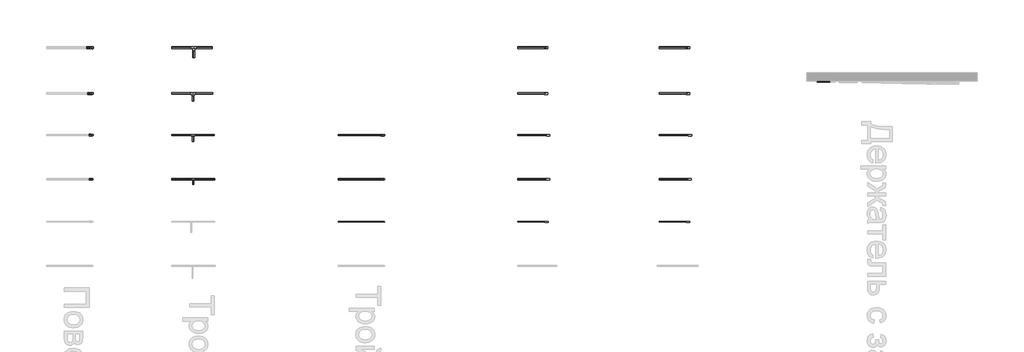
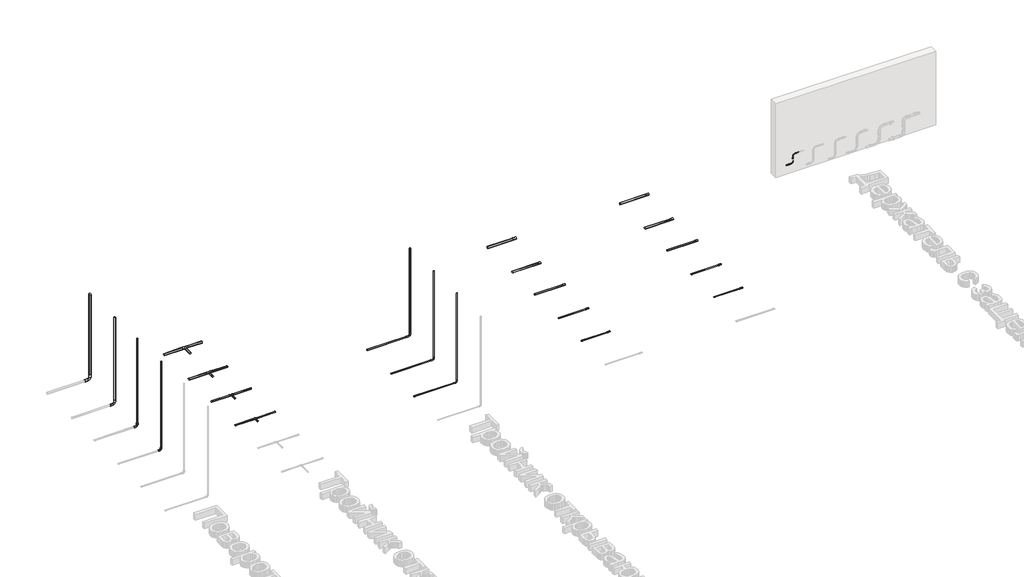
# One storey, part 5 of 33: 36 cable carrier segments, 25 cable carrier fittings.
"""IFC4 building model written with IfcOpenShell, lengths in millimetres."""

from ifc_helpers import new_model, si_unit, point, frame, frame_2d, origin, place, context, project, spatial, circle_curve, trimmed, segment, composite_curve, outline, extrude, transform, mapped, element, save
from components import cable_carrier_fitting_a50456ce, cable_carrier_fitting_bbf9297c, cable_carrier_fitting_fce20a62, cable_carrier_fitting_09f9ef3d, cable_carrier_fitting_f1df9ac4, cable_carrier_fitting_5acdfb20, cable_carrier_fitting_46aa9863, cable_carrier_fitting_b532b940, cable_carrier_fitting_59e1ce25, cable_carrier_fitting_cf1a74b0, cable_carrier_fitting_2f32caac, cable_carrier_fitting_6d3d2407, cable_carrier_fitting_cf892bee, cable_carrier_fitting_980a1c15, cable_carrier_fitting_9b2a14fc, cable_carrier_fitting_f114ceb8, cable_carrier_fitting_bc4a73b8, cable_carrier_fitting_2c533e93

model = new_model("IFC4")

# Units and contexts
model_context = context("Model", 3, world=origin())
ifc_project = project(units=[si_unit("LENGTHUNIT", "METRE", prefix="MILLI")], contexts=[model_context])

# Site, building, storey
site = spatial("IfcSite", under=ifc_project)
building = spatial("IfcBuilding", under=site)
storey = spatial("IfcBuildingStorey", under=building, Name="Уровень 1", Elevation=0.0)

# Cable carrier fittings
placement = place(None, origin())
cable_carrier_fitting_shape = cable_carrier_fitting_a50456ce(model_context)
element("IfcCableCarrierFitting", 1, ObjectType="Отвод Трубы гладкие жесткие ПВХ : Отвод Трубы гладкие жесткие ПВХ", at=placement, inside=storey, context=model_context, shape_type="MappedRepresentation", body=[
    mapped(cable_carrier_fitting_shape, transform((49857.669946, 4388.4818447, 256.0339275), x_axis=(1.0, 0.0, 0.0), y_axis=(0.0, 0.0, 1.0), z_axis=(0.0, -1.0, 0.0))),
])
element("IfcCableCarrierFitting", 2, ObjectType="Отвод Трубы гладкие жесткие ПВХ : Отвод Трубы гладкие жесткие ПВХ", at=placement, inside=storey, context=model_context, shape_type="MappedRepresentation", body=[
    mapped(cable_carrier_fitting_shape, transform((49857.669946, 4388.4818447, 500.0), x_axis=(0.0, 0.0, 1.0), y_axis=(1.0, 0.0, 0.0), z_axis=(0.0, 1.0, 0.0))),
])
cable_carrier_fitting_2_shape = cable_carrier_fitting_bbf9297c(model_context)
element("IfcCableCarrierFitting", 3, ObjectType="Поворот на 90 открывающийся CIG : Поворот на 90 открывающийся CIG", at=placement, inside=storey, context=model_context, shape_type="MappedRepresentation", body=[
    mapped(cable_carrier_fitting_2_shape, transform((39294.4472755, 3107.6255993, 45.929251), x_axis=(1.0, 0.0, 0.0), y_axis=(0.0, 0.0, 1.0), z_axis=(0.0, -1.0, 0.0))),
])
cable_carrier_fitting_3_shape = cable_carrier_fitting_fce20a62(model_context)
element("IfcCableCarrierFitting", 4, ObjectType="Поворот на 90 открывающийся CIG : Поворот на 90 открывающийся CIG", at=placement, inside=storey, context=model_context, shape_type="MappedRepresentation", body=[
    mapped(cable_carrier_fitting_3_shape, transform((39294.4472755, 1027.6255993, 45.929251), x_axis=(1.0, 0.0, 0.0), y_axis=(0.0, 0.0, 1.0), z_axis=(0.0, -1.0, 0.0))),
])
cable_carrier_fitting_4_shape = cable_carrier_fitting_09f9ef3d(model_context)
element("IfcCableCarrierFitting", 5, ObjectType="Поворот на 90 открывающийся CIG : Поворот на 90 открывающийся CIG", at=placement, inside=storey, context=model_context, shape_type="MappedRepresentation", body=[
    mapped(cable_carrier_fitting_4_shape, transform((39294.4472755, 2047.6255993, 45.929251), x_axis=(1.0, 0.0, 0.0), y_axis=(0.0, 0.0, 1.0), z_axis=(0.0, -1.0, 0.0))),
])
cable_carrier_fitting_5_shape = cable_carrier_fitting_f1df9ac4(model_context)
element("IfcCableCarrierFitting", 6, ObjectType="Поворот на 90 труба-труба IP65 CS : Поворот на 90 труба-труба IP65 CS", at=placement, inside=storey, context=model_context, shape_type="MappedRepresentation", body=[
    mapped(cable_carrier_fitting_5_shape, transform((32294.4472755, 5207.6255993, 45.929251), x_axis=(1.0, 0.0, 0.0), y_axis=(0.0, 0.0, 1.0), z_axis=(0.0, -1.0, 0.0))),
])
cable_carrier_fitting_6_shape = cable_carrier_fitting_5acdfb20(model_context)
element("IfcCableCarrierFitting", 7, ObjectType="Поворот на 90 труба-труба IP65 CS : Поворот на 90 труба-труба IP65 CS", at=placement, inside=storey, context=model_context, shape_type="MappedRepresentation", body=[
    mapped(cable_carrier_fitting_6_shape, transform((32294.4472755, 2047.6255993, 45.929251), x_axis=(1.0, 0.0, 0.0), y_axis=(0.0, 0.0, 1.0), z_axis=(0.0, -1.0, 0.0))),
])
cable_carrier_fitting_7_shape = cable_carrier_fitting_46aa9863(model_context)
element("IfcCableCarrierFitting", 8, ObjectType="Поворот на 90 труба-труба IP65 CS : Поворот на 90 труба-труба IP65 CS", at=placement, inside=storey, context=model_context, shape_type="MappedRepresentation", body=[
    mapped(cable_carrier_fitting_7_shape, transform((32294.4472755, 3107.6255993, 45.929251), x_axis=(1.0, 0.0, 0.0), y_axis=(0.0, 0.0, 1.0), z_axis=(0.0, -1.0, 0.0))),
])
cable_carrier_fitting_8_shape = cable_carrier_fitting_b532b940(model_context)
element("IfcCableCarrierFitting", 9, ObjectType="Поворот на 90 труба-труба IP65 CS : Поворот на 90 труба-труба IP65 CS", at=placement, inside=storey, context=model_context, shape_type="MappedRepresentation", body=[
    mapped(cable_carrier_fitting_8_shape, transform((32294.4472755, 4107.6255993, 45.929251), x_axis=(1.0, 0.0, 0.0), y_axis=(0.0, 0.0, 1.0), z_axis=(0.0, -1.0, 0.0))),
])
cable_carrier_fitting_9_shape = cable_carrier_fitting_59e1ce25(model_context)
element("IfcCableCarrierFitting", 10, ObjectType="Муфта прямая труба-труба армированная IP65 GA : CTA10D-GA20-K41-050", at=placement, inside=storey, context=model_context, shape_type="MappedRepresentation", body=[
    mapped(cable_carrier_fitting_9_shape, transform((43186.5037048, 1027.6255993, 45.929251), x_axis=(-1.0, 0.0, 0.0), y_axis=(0.0, -1.0, 0.0), z_axis=(0.0, 0.0, 1.0))),
])
cable_carrier_fitting_10_shape = cable_carrier_fitting_cf1a74b0(model_context)
element("IfcCableCarrierFitting", 11, ObjectType="Муфта прямая труба-труба армированная IP65 GA : CTA10D-GA25-K41-025", at=placement, inside=storey, context=model_context, shape_type="MappedRepresentation", body=[
    mapped(cable_carrier_fitting_10_shape, transform((43224.5863662, 2047.6255993, 45.929251), x_axis=(-1.0, 0.0, 0.0), y_axis=(0.0, -1.0, 0.0), z_axis=(0.0, 0.0, 1.0))),
])
cable_carrier_fitting_11_shape = cable_carrier_fitting_2f32caac(model_context)
element("IfcCableCarrierFitting", 12, ObjectType="Муфта прямая труба-труба армированная IP65 GA : CTA10D-GA32-K41-020", at=placement, inside=storey, context=model_context, shape_type="MappedRepresentation", body=[
    mapped(cable_carrier_fitting_11_shape, transform((43231.9019988, 3107.6255993, 45.929251), x_axis=(-1.0, 0.0, 0.0), y_axis=(0.0, -1.0, 0.0), z_axis=(0.0, 0.0, 1.0))),
])
cable_carrier_fitting_12_shape = cable_carrier_fitting_6d3d2407(model_context)
element("IfcCableCarrierFitting", 13, ObjectType="Муфта прямая труба-труба армированная IP65 GA : CTA10D-GA40-K41-015", at=placement, inside=storey, context=model_context, shape_type="MappedRepresentation", body=[
    mapped(cable_carrier_fitting_12_shape, transform((43180.9727478, 4107.6255993, 45.929251), x_axis=(-1.0, 0.0, 0.0), y_axis=(0.0, -1.0, 0.0), z_axis=(0.0, 0.0, 1.0))),
])
cable_carrier_fitting_13_shape = cable_carrier_fitting_cf892bee(model_context)
element("IfcCableCarrierFitting", 14, ObjectType="Муфта прямая труба-труба армированная IP65 GA : CTA10D-GA50-K41-010", at=placement, inside=storey, context=model_context, shape_type="MappedRepresentation", body=[
    mapped(cable_carrier_fitting_13_shape, transform((43184.4507919, 5207.6255993, 45.929251), x_axis=(-1.0, 0.0, 0.0), y_axis=(0.0, -1.0, 0.0), z_axis=(0.0, 0.0, 1.0))),
])
element("IfcCableCarrierFitting", 15, ObjectType="Муфта прямая труба-труба армированная IP65 GS : CTA10D-GS20-K41-050", at=placement, inside=storey, context=model_context, shape_type="MappedRepresentation", body=[
    mapped(cable_carrier_fitting_9_shape, transform((46586.5037048, 1027.6255993, 45.929251), x_axis=(-1.0, 0.0, 0.0), y_axis=(0.0, -1.0, 0.0), z_axis=(0.0, 0.0, 1.0))),
])
element("IfcCableCarrierFitting", 16, ObjectType="Муфта прямая труба-труба армированная IP65 GS : CTA10D-GS25-K41-050", at=placement, inside=storey, context=model_context, shape_type="MappedRepresentation", body=[
    mapped(cable_carrier_fitting_10_shape, transform((46624.5863662, 2047.6255993, 45.929251), x_axis=(-1.0, 0.0, 0.0), y_axis=(0.0, -1.0, 0.0), z_axis=(0.0, 0.0, 1.0))),
])
element("IfcCableCarrierFitting", 17, ObjectType="Муфта прямая труба-труба армированная IP65 GS : CTA10D-GS32-K41-025", at=placement, inside=storey, context=model_context, shape_type="MappedRepresentation", body=[
    mapped(cable_carrier_fitting_11_shape, transform((46631.9019988, 3107.6255993, 45.929251), x_axis=(1.0, 0.0, 0.0), y_axis=(0.0, 1.0, 0.0), z_axis=(0.0, 0.0, 1.0))),
])
element("IfcCableCarrierFitting", 18, ObjectType="Муфта прямая труба-труба армированная IP65 GS : CTA10D-GS40-K41-020", at=placement, inside=storey, context=model_context, shape_type="MappedRepresentation", body=[
    mapped(cable_carrier_fitting_12_shape, transform((46580.9727478, 4107.6255993, 45.929251), x_axis=(1.0, 0.0, 0.0), y_axis=(0.0, 1.0, 0.0), z_axis=(0.0, 0.0, 1.0))),
])
element("IfcCableCarrierFitting", 19, ObjectType="Муфта прямая труба-труба армированная IP65 GS : CTA10D-GS50-K41-015", at=placement, inside=storey, context=model_context, shape_type="MappedRepresentation", body=[
    mapped(cable_carrier_fitting_13_shape, transform((46584.4507919, 5207.6255993, 45.929251), x_axis=(1.0, 0.0, 0.0), y_axis=(0.0, 1.0, 0.0), z_axis=(0.0, 0.0, 1.0))),
])
cable_carrier_fitting_14_shape = cable_carrier_fitting_980a1c15(model_context)
element("IfcCableCarrierFitting", 20, ObjectType="Держатель с защелкой CF : CTA10D-CF16-K41-100", at=placement, inside=storey, context=model_context, shape_type="MappedRepresentation", body=[
    mapped(cable_carrier_fitting_14_shape, transform((49738.2203487, 4388.4818447, 256.0339275), x_axis=(1.0, 0.0, 0.0), y_axis=(0.0, 0.0, 1.0000000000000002), z_axis=(0.0, -1.0000000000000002, 0.0))),
])
element("IfcCableCarrierFitting", 21, ObjectType="Держатель с защелкой CF : CTA10D-CF16-K41-100", at=placement, inside=storey, context=model_context, shape_type="MappedRepresentation", body=[
    mapped(cable_carrier_fitting_14_shape, transform((49857.669946, 4388.4818447, 388.4557641), x_axis=(0.0, 0.0, 1.0), y_axis=(-1.0000000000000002, 0.0, 0.0), z_axis=(0.0, -1.0000000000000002, 0.0))),
])
cable_carrier_fitting_15_shape = cable_carrier_fitting_9b2a14fc(model_context)
element("IfcCableCarrierFitting", 22, ObjectType="Тройник открывающийся TIG : Тройник открывающийся TIG", at=placement, inside=storey, context=model_context, shape_type="MappedRepresentation", body=[
    mapped(cable_carrier_fitting_15_shape, transform((34726.8004657, 5207.6255993, 45.929251), x_axis=(-0.9999999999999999, 0.0, 0.0), y_axis=(0.0, -1.0, 0.0), z_axis=(0.0, 0.0, 1.0000000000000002))),
])
cable_carrier_fitting_16_shape = cable_carrier_fitting_f114ceb8(model_context)
element("IfcCableCarrierFitting", 23, ObjectType="Тройник открывающийся TIG : Тройник открывающийся TIG", at=placement, inside=storey, context=model_context, shape_type="MappedRepresentation", body=[
    mapped(cable_carrier_fitting_16_shape, transform((34709.4472755, 2047.6255993, 45.929251), x_axis=(-0.9999999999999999, 0.0, 0.0), y_axis=(0.0, -1.0, 0.0), z_axis=(0.0, 0.0, 1.0000000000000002))),
])
cable_carrier_fitting_17_shape = cable_carrier_fitting_bc4a73b8(model_context)
element("IfcCableCarrierFitting", 24, ObjectType="Тройник открывающийся TIG : Тройник открывающийся TIG", at=placement, inside=storey, context=model_context, shape_type="MappedRepresentation", body=[
    mapped(cable_carrier_fitting_17_shape, transform((34709.4472755, 3107.6255993, 45.929251), x_axis=(-0.9999999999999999, 0.0, 0.0), y_axis=(0.0, -1.0, 0.0), z_axis=(0.0, 0.0, 1.0000000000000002))),
])
cable_carrier_fitting_18_shape = cable_carrier_fitting_2c533e93(model_context)
element("IfcCableCarrierFitting", 25, ObjectType="Тройник открывающийся TIG : Тройник открывающийся TIG", at=placement, inside=storey, context=model_context, shape_type="MappedRepresentation", body=[
    mapped(cable_carrier_fitting_18_shape, transform((34709.4472755, 4107.6255993, 45.929251), x_axis=(-0.9999999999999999, 0.0, 0.0), y_axis=(0.0, -1.0, 0.0), z_axis=(0.0, 0.0, 1.0000000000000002))),
])

# Cable carrier segments
element("IfcCableCarrierSegment", 26, ObjectType="Трубы гладкие жесткие ПВХ", at=placement, inside=storey, context=model_context, shape_type="SweptSolid", body=[
    extrude(outline(composite_curve([segment(trimmed(circle_curve(frame_2d((32294.4472755, 2047.6255993)), 12.5), [point((32281.9472755, 2047.6255993))], [point((32294.4472755, 2060.1255993))], False, "CARTESIAN"), True, "CONTINUOUS"), segment(trimmed(circle_curve(frame_2d((32294.4472755, 2047.6255993)), 12.5), [point((32294.4472755, 2060.1255993))], [point((32306.9472755, 2047.6255993))], False, "CARTESIAN"), True, "CONTINUOUS"), segment(trimmed(circle_curve(frame_2d((32294.4472755, 2047.6255993)), 12.5), [point((32306.9472755, 2047.6255993))], [point((32294.4472755, 2035.1255993))], False, "CARTESIAN"), True, "CONTINUOUS"), segment(trimmed(circle_curve(frame_2d((32294.4472755, 2047.6255993)), 12.5), [point((32294.4472755, 2035.1255993))], [point((32281.9472755, 2047.6255993))], False, "CARTESIAN"), True, "CONTINUOUS")], self_intersect=False)), frame((0.0, 0.0, 115.929251), z_axis=(0.0, 0.0, 1.0), x_axis=(1.0, 0.0, 0.0)), (0.0, 0.0, 1.0), 2327.1046),
])
element("IfcCableCarrierSegment", 27, ObjectType="Трубы гладкие жесткие ПВХ", at=placement, inside=storey, context=model_context, shape_type="SweptSolid", body=[
    extrude(outline(composite_curve([segment(trimmed(circle_curve(frame_2d((32294.4472755, 3107.6255993)), 16.0), [point((32278.4472755, 3107.6255993))], [point((32294.4472755, 3123.6255993))], False, "CARTESIAN"), True, "CONTINUOUS"), segment(trimmed(circle_curve(frame_2d((32294.4472755, 3107.6255993)), 16.0), [point((32294.4472755, 3123.6255993))], [point((32310.4472755, 3107.6255993))], False, "CARTESIAN"), True, "CONTINUOUS"), segment(trimmed(circle_curve(frame_2d((32294.4472755, 3107.6255993)), 16.0), [point((32310.4472755, 3107.6255993))], [point((32294.4472755, 3091.6255993))], False, "CARTESIAN"), True, "CONTINUOUS"), segment(trimmed(circle_curve(frame_2d((32294.4472755, 3107.6255993)), 16.0), [point((32294.4472755, 3091.6255993))], [point((32278.4472755, 3107.6255993))], False, "CARTESIAN"), True, "CONTINUOUS")], self_intersect=False)), frame((0.0, 0.0, 125.929251), z_axis=(0.0, 0.0, 1.0), x_axis=(1.0, 0.0, 0.0)), (0.0, 0.0, 1.0), 2291.73),
])
element("IfcCableCarrierSegment", 28, ObjectType="Трубы гладкие жесткие ПВХ", at=placement, inside=storey, context=model_context, shape_type="SweptSolid", body=[
    extrude(outline(composite_curve([segment(trimmed(circle_curve(frame_2d((32294.4472755, 4107.6255993)), 20.0), [point((32274.4472755, 4107.6255993))], [point((32294.4472755, 4127.6255993))], False, "CARTESIAN"), True, "CONTINUOUS"), segment(trimmed(circle_curve(frame_2d((32294.4472755, 4107.6255993)), 20.0), [point((32294.4472755, 4127.6255993))], [point((32314.4472755, 4107.6255993))], False, "CARTESIAN"), True, "CONTINUOUS"), segment(trimmed(circle_curve(frame_2d((32294.4472755, 4107.6255993)), 20.0), [point((32314.4472755, 4107.6255993))], [point((32294.4472755, 4087.6255993))], False, "CARTESIAN"), True, "CONTINUOUS"), segment(trimmed(circle_curve(frame_2d((32294.4472755, 4107.6255993)), 20.0), [point((32294.4472755, 4087.6255993))], [point((32274.4472755, 4107.6255993))], False, "CARTESIAN"), True, "CONTINUOUS")], self_intersect=False)), frame((0.0, 0.0, 155.929251), z_axis=(0.0, 0.0, 1.0), x_axis=(1.0, 0.0, 0.0)), (0.0, 0.0, 1.0), 2233.917),
])
element("IfcCableCarrierSegment", 29, ObjectType="Трубы гладкие жесткие ПВХ", at=placement, inside=storey, context=model_context, shape_type="SweptSolid", body=[
    extrude(outline(composite_curve([segment(trimmed(circle_curve(frame_2d((32294.4472755, 5207.6255993)), 25.0), [point((32269.4472755, 5207.6255993))], [point((32294.4472755, 5232.6255993))], False, "CARTESIAN"), True, "CONTINUOUS"), segment(trimmed(circle_curve(frame_2d((32294.4472755, 5207.6255993)), 25.0), [point((32294.4472755, 5232.6255993))], [point((32319.4472755, 5207.6255993))], False, "CARTESIAN"), True, "CONTINUOUS"), segment(trimmed(circle_curve(frame_2d((32294.4472755, 5207.6255993)), 25.0), [point((32319.4472755, 5207.6255993))], [point((32294.4472755, 5182.6255993))], False, "CARTESIAN"), True, "CONTINUOUS"), segment(trimmed(circle_curve(frame_2d((32294.4472755, 5207.6255993)), 25.0), [point((32294.4472755, 5182.6255993))], [point((32269.4472755, 5207.6255993))], False, "CARTESIAN"), True, "CONTINUOUS")], self_intersect=False)), frame((0.0, 0.0, 175.929251), z_axis=(0.0, 0.0, 1.0), x_axis=(1.0, 0.0, 0.0)), (0.0, 0.0, 1.0), 2179.5254),
])
element("IfcCableCarrierSegment", 30, ObjectType="Трубы гладкие жесткие ПВХ", at=placement, inside=storey, context=model_context, shape_type="SweptSolid", body=[
    extrude(outline(composite_curve([segment(trimmed(circle_curve(frame_2d((1027.6255993, 45.929251)), 10.0), [point((1017.6255993, 45.929251))], [point((1027.6255993, 55.929251))], False, "CARTESIAN"), True, "CONTINUOUS"), segment(trimmed(circle_curve(frame_2d((1027.6255993, 45.929251)), 10.0), [point((1027.6255993, 55.929251))], [point((1037.6255993, 45.929251))], False, "CARTESIAN"), True, "CONTINUOUS"), segment(trimmed(circle_curve(frame_2d((1027.6255993, 45.929251)), 10.0), [point((1037.6255993, 45.929251))], [point((1027.6255993, 35.929251))], False, "CARTESIAN"), True, "CONTINUOUS"), segment(trimmed(circle_curve(frame_2d((1027.6255993, 45.929251)), 10.0), [point((1027.6255993, 35.929251))], [point((1017.6255993, 45.929251))], False, "CARTESIAN"), True, "CONTINUOUS")], self_intersect=False)), frame((38194.4472755, 0.0, 0.0), z_axis=(1.0, 0.0, 0.0), x_axis=(0.0, 1.0, 0.0)), (0.0, 0.0, 1.0), 1040.0),
])
element("IfcCableCarrierSegment", 31, ObjectType="Трубы гладкие жесткие ПВХ", at=placement, inside=storey, context=model_context, shape_type="SweptSolid", body=[
    extrude(outline(composite_curve([segment(trimmed(circle_curve(frame_2d((39294.4472755, 1027.6255993)), 10.0), [point((39284.4472755, 1027.6255993))], [point((39294.4472755, 1037.6255993))], False, "CARTESIAN"), True, "CONTINUOUS"), segment(trimmed(circle_curve(frame_2d((39294.4472755, 1027.6255993)), 10.0), [point((39294.4472755, 1037.6255993))], [point((39304.4472755, 1027.6255993))], False, "CARTESIAN"), True, "CONTINUOUS"), segment(trimmed(circle_curve(frame_2d((39294.4472755, 1027.6255993)), 10.0), [point((39304.4472755, 1027.6255993))], [point((39294.4472755, 1017.6255993))], False, "CARTESIAN"), True, "CONTINUOUS"), segment(trimmed(circle_curve(frame_2d((39294.4472755, 1027.6255993)), 10.0), [point((39294.4472755, 1017.6255993))], [point((39284.4472755, 1027.6255993))], False, "CARTESIAN"), True, "CONTINUOUS")], self_intersect=False)), frame((0.0, 0.0, 105.929251), z_axis=(0.0, 0.0, 1.0), x_axis=(1.0, 0.0, 0.0)), (0.0, 0.0, 1.0), 2356.5102),
])
element("IfcCableCarrierSegment", 32, ObjectType="Трубы гладкие жесткие ПВХ", at=placement, inside=storey, context=model_context, shape_type="SweptSolid", body=[
    extrude(outline(composite_curve([segment(trimmed(circle_curve(frame_2d((2047.6255993, 45.929251)), 12.5), [point((2035.1255993, 45.929251))], [point((2047.6255993, 58.429251))], False, "CARTESIAN"), True, "CONTINUOUS"), segment(trimmed(circle_curve(frame_2d((2047.6255993, 45.929251)), 12.5), [point((2047.6255993, 58.429251))], [point((2060.1255993, 45.929251))], False, "CARTESIAN"), True, "CONTINUOUS"), segment(trimmed(circle_curve(frame_2d((2047.6255993, 45.929251)), 12.5), [point((2060.1255993, 45.929251))], [point((2047.6255993, 33.429251))], False, "CARTESIAN"), True, "CONTINUOUS"), segment(trimmed(circle_curve(frame_2d((2047.6255993, 45.929251)), 12.5), [point((2047.6255993, 33.429251))], [point((2035.1255993, 45.929251))], False, "CARTESIAN"), True, "CONTINUOUS")], self_intersect=False)), frame((38194.4472755, 0.0, 0.0), z_axis=(1.0, 0.0, 0.0), x_axis=(0.0, 1.0, 0.0)), (0.0, 0.0, 1.0), 1030.0),
])
element("IfcCableCarrierSegment", 33, ObjectType="Трубы гладкие жесткие ПВХ", at=placement, inside=storey, context=model_context, shape_type="SweptSolid", body=[
    extrude(outline(composite_curve([segment(trimmed(circle_curve(frame_2d((39294.4472755, 2047.6255993)), 12.5), [point((39281.9472755, 2047.6255993))], [point((39294.4472755, 2060.1255993))], False, "CARTESIAN"), True, "CONTINUOUS"), segment(trimmed(circle_curve(frame_2d((39294.4472755, 2047.6255993)), 12.5), [point((39294.4472755, 2060.1255993))], [point((39306.9472755, 2047.6255993))], False, "CARTESIAN"), True, "CONTINUOUS"), segment(trimmed(circle_curve(frame_2d((39294.4472755, 2047.6255993)), 12.5), [point((39306.9472755, 2047.6255993))], [point((39294.4472755, 2035.1255993))], False, "CARTESIAN"), True, "CONTINUOUS"), segment(trimmed(circle_curve(frame_2d((39294.4472755, 2047.6255993)), 12.5), [point((39294.4472755, 2035.1255993))], [point((39281.9472755, 2047.6255993))], False, "CARTESIAN"), True, "CONTINUOUS")], self_intersect=False)), frame((0.0, 0.0, 115.929251), z_axis=(0.0, 0.0, 1.0), x_axis=(1.0, 0.0, 0.0)), (0.0, 0.0, 1.0), 2327.1046),
])
element("IfcCableCarrierSegment", 34, ObjectType="Трубы гладкие жесткие ПВХ", at=placement, inside=storey, context=model_context, shape_type="SweptSolid", body=[
    extrude(outline(composite_curve([segment(trimmed(circle_curve(frame_2d((3107.6255993, 45.929251)), 16.0), [point((3091.6255993, 45.929251))], [point((3107.6255993, 61.929251))], False, "CARTESIAN"), True, "CONTINUOUS"), segment(trimmed(circle_curve(frame_2d((3107.6255993, 45.929251)), 16.0), [point((3107.6255993, 61.929251))], [point((3123.6255993, 45.929251))], False, "CARTESIAN"), True, "CONTINUOUS"), segment(trimmed(circle_curve(frame_2d((3107.6255993, 45.929251)), 16.0), [point((3123.6255993, 45.929251))], [point((3107.6255993, 29.929251))], False, "CARTESIAN"), True, "CONTINUOUS"), segment(trimmed(circle_curve(frame_2d((3107.6255993, 45.929251)), 16.0), [point((3107.6255993, 29.929251))], [point((3091.6255993, 45.929251))], False, "CARTESIAN"), True, "CONTINUOUS")], self_intersect=False)), frame((38194.4472755, 0.0, 0.0), z_axis=(1.0, 0.0, 0.0), x_axis=(0.0, 1.0, 0.0)), (0.0, 0.0, 1.0), 1020.0),
])
element("IfcCableCarrierSegment", 35, ObjectType="Трубы гладкие жесткие ПВХ", at=placement, inside=storey, context=model_context, shape_type="SweptSolid", body=[
    extrude(outline(composite_curve([segment(trimmed(circle_curve(frame_2d((39294.4472755, 3107.6255993)), 16.0), [point((39278.4472755, 3107.6255993))], [point((39294.4472755, 3123.6255993))], False, "CARTESIAN"), True, "CONTINUOUS"), segment(trimmed(circle_curve(frame_2d((39294.4472755, 3107.6255993)), 16.0), [point((39294.4472755, 3123.6255993))], [point((39310.4472755, 3107.6255993))], False, "CARTESIAN"), True, "CONTINUOUS"), segment(trimmed(circle_curve(frame_2d((39294.4472755, 3107.6255993)), 16.0), [point((39310.4472755, 3107.6255993))], [point((39294.4472755, 3091.6255993))], False, "CARTESIAN"), True, "CONTINUOUS"), segment(trimmed(circle_curve(frame_2d((39294.4472755, 3107.6255993)), 16.0), [point((39294.4472755, 3091.6255993))], [point((39278.4472755, 3107.6255993))], False, "CARTESIAN"), True, "CONTINUOUS")], self_intersect=False)), frame((0.0, 0.0, 125.929251), z_axis=(0.0, 0.0, 1.0), x_axis=(1.0, 0.0, 0.0)), (0.0, 0.0, 1.0), 2291.73),
])
element("IfcCableCarrierSegment", 36, ObjectType="Трубы гладкие жесткие ПВХ", at=placement, inside=storey, context=model_context, shape_type="SweptSolid", body=[
    extrude(outline(composite_curve([segment(trimmed(circle_curve(frame_2d((1027.6255993, 45.929251)), 10.0), [point((1017.6255993, 45.929251))], [point((1027.6255993, 55.929251))], False, "CARTESIAN"), True, "CONTINUOUS"), segment(trimmed(circle_curve(frame_2d((1027.6255993, 45.929251)), 10.0), [point((1027.6255993, 55.929251))], [point((1037.6255993, 45.929251))], False, "CARTESIAN"), True, "CONTINUOUS"), segment(trimmed(circle_curve(frame_2d((1027.6255993, 45.929251)), 10.0), [point((1037.6255993, 45.929251))], [point((1027.6255993, 35.929251))], False, "CARTESIAN"), True, "CONTINUOUS"), segment(trimmed(circle_curve(frame_2d((1027.6255993, 45.929251)), 10.0), [point((1027.6255993, 35.929251))], [point((1017.6255993, 45.929251))], False, "CARTESIAN"), True, "CONTINUOUS")], self_intersect=False)), frame((42494.4472755, 0.0, 0.0), z_axis=(1.0, 0.0, 0.0), x_axis=(0.0, 1.0, 0.0)), (0.0, 0.0, 1.0), 687.0564294),
])
element("IfcCableCarrierSegment", 37, ObjectType="Трубы гладкие жесткие ПВХ", at=placement, inside=storey, context=model_context, shape_type="SweptSolid", body=[
    extrude(outline(composite_curve([segment(trimmed(circle_curve(frame_2d((2047.6255993, 45.929251)), 12.5), [point((2060.1255993, 45.929251))], [point((2047.6255993, 33.429251))], False, "CARTESIAN"), True, "CONTINUOUS"), segment(trimmed(circle_curve(frame_2d((2047.6255993, 45.929251)), 12.5), [point((2047.6255993, 33.429251))], [point((2035.1255993, 45.929251))], False, "CARTESIAN"), True, "CONTINUOUS"), segment(trimmed(circle_curve(frame_2d((2047.6255993, 45.929251)), 12.5), [point((2035.1255993, 45.929251))], [point((2047.6255993, 58.429251))], False, "CARTESIAN"), True, "CONTINUOUS"), segment(trimmed(circle_curve(frame_2d((2047.6255993, 45.929251)), 12.5), [point((2047.6255993, 58.429251))], [point((2060.1255993, 45.929251))], False, "CARTESIAN"), True, "CONTINUOUS")], self_intersect=False)), frame((42494.4472755, 0.0, 0.0), z_axis=(1.0, 0.0, 0.0), x_axis=(0.0, 1.0, 0.0)), (0.0, 0.0, 1.0), 725.1390907),
])
element("IfcCableCarrierSegment", 38, ObjectType="Трубы гладкие жесткие ПВХ", at=placement, inside=storey, context=model_context, shape_type="SweptSolid", body=[
    extrude(outline(composite_curve([segment(trimmed(circle_curve(frame_2d((3107.6255993, 45.929251)), 16.0), [point((3123.6255993, 45.929251))], [point((3107.6255993, 29.929251))], False, "CARTESIAN"), True, "CONTINUOUS"), segment(trimmed(circle_curve(frame_2d((3107.6255993, 45.929251)), 16.0), [point((3107.6255993, 29.929251))], [point((3091.6255993, 45.929251))], False, "CARTESIAN"), True, "CONTINUOUS"), segment(trimmed(circle_curve(frame_2d((3107.6255993, 45.929251)), 16.0), [point((3091.6255993, 45.929251))], [point((3107.6255993, 61.929251))], False, "CARTESIAN"), True, "CONTINUOUS"), segment(trimmed(circle_curve(frame_2d((3107.6255993, 45.929251)), 16.0), [point((3107.6255993, 61.929251))], [point((3123.6255993, 45.929251))], False, "CARTESIAN"), True, "CONTINUOUS")], self_intersect=False)), frame((42494.4472755, 0.0, 0.0), z_axis=(1.0, 0.0, 0.0), x_axis=(0.0, 1.0, 0.0)), (0.0, 0.0, 1.0), 732.4547234),
])
element("IfcCableCarrierSegment", 39, ObjectType="Трубы гладкие жесткие ПВХ", at=placement, inside=storey, context=model_context, shape_type="SweptSolid", body=[
    extrude(outline(composite_curve([segment(trimmed(circle_curve(frame_2d((4107.6255993, 45.929251)), 20.0), [point((4127.6255993, 45.929251))], [point((4107.6255993, 25.929251))], False, "CARTESIAN"), True, "CONTINUOUS"), segment(trimmed(circle_curve(frame_2d((4107.6255993, 45.929251)), 20.0), [point((4107.6255993, 25.929251))], [point((4087.6255993, 45.929251))], False, "CARTESIAN"), True, "CONTINUOUS"), segment(trimmed(circle_curve(frame_2d((4107.6255993, 45.929251)), 20.0), [point((4087.6255993, 45.929251))], [point((4107.6255993, 65.929251))], False, "CARTESIAN"), True, "CONTINUOUS"), segment(trimmed(circle_curve(frame_2d((4107.6255993, 45.929251)), 20.0), [point((4107.6255993, 65.929251))], [point((4127.6255993, 45.929251))], False, "CARTESIAN"), True, "CONTINUOUS")], self_intersect=False)), frame((42494.4472755, 0.0, 0.0), z_axis=(1.0, 0.0, 0.0), x_axis=(0.0, 1.0, 0.0)), (0.0, 0.0, 1.0), 681.5254723),
])
element("IfcCableCarrierSegment", 40, ObjectType="Трубы гладкие жесткие ПВХ", at=placement, inside=storey, context=model_context, shape_type="SweptSolid", body=[
    extrude(outline(composite_curve([segment(trimmed(circle_curve(frame_2d((5207.6255993, 45.929251)), 25.0), [point((5232.6255993, 45.929251))], [point((5207.6255993, 20.929251))], False, "CARTESIAN"), True, "CONTINUOUS"), segment(trimmed(circle_curve(frame_2d((5207.6255993, 45.929251)), 25.0), [point((5207.6255993, 20.929251))], [point((5182.6255993, 45.929251))], False, "CARTESIAN"), True, "CONTINUOUS"), segment(trimmed(circle_curve(frame_2d((5207.6255993, 45.929251)), 25.0), [point((5182.6255993, 45.929251))], [point((5207.6255993, 70.929251))], False, "CARTESIAN"), True, "CONTINUOUS"), segment(trimmed(circle_curve(frame_2d((5207.6255993, 45.929251)), 25.0), [point((5207.6255993, 70.929251))], [point((5232.6255993, 45.929251))], False, "CARTESIAN"), True, "CONTINUOUS")], self_intersect=False)), frame((42494.4472755, 0.0, 0.0), z_axis=(1.0, 0.0, 0.0), x_axis=(0.0, 1.0, 0.0)), (0.0, 0.0, 1.0), 685.0035164),
])
element("IfcCableCarrierSegment", 41, ObjectType="Трубы гладкие жесткие ПВХ", at=placement, inside=storey, context=model_context, shape_type="SweptSolid", body=[
    extrude(outline(composite_curve([segment(trimmed(circle_curve(frame_2d((1027.6255993, 45.929251)), 10.0), [point((1017.6255993, 45.929251))], [point((1027.6255993, 55.929251))], False, "CARTESIAN"), True, "CONTINUOUS"), segment(trimmed(circle_curve(frame_2d((1027.6255993, 45.929251)), 10.0), [point((1027.6255993, 55.929251))], [point((1037.6255993, 45.929251))], False, "CARTESIAN"), True, "CONTINUOUS"), segment(trimmed(circle_curve(frame_2d((1027.6255993, 45.929251)), 10.0), [point((1037.6255993, 45.929251))], [point((1027.6255993, 35.929251))], False, "CARTESIAN"), True, "CONTINUOUS"), segment(trimmed(circle_curve(frame_2d((1027.6255993, 45.929251)), 10.0), [point((1027.6255993, 35.929251))], [point((1017.6255993, 45.929251))], False, "CARTESIAN"), True, "CONTINUOUS")], self_intersect=False)), frame((45894.4472755, 0.0, 0.0), z_axis=(1.0, 0.0, 0.0), x_axis=(0.0, 1.0, 0.0)), (0.0, 0.0, 1.0), 687.0564294),
])
element("IfcCableCarrierSegment", 42, ObjectType="Трубы гладкие жесткие ПВХ", at=placement, inside=storey, context=model_context, shape_type="SweptSolid", body=[
    extrude(outline(composite_curve([segment(trimmed(circle_curve(frame_2d((2047.6255993, 45.929251)), 12.5), [point((2060.1255993, 45.929251))], [point((2047.6255993, 33.429251))], False, "CARTESIAN"), True, "CONTINUOUS"), segment(trimmed(circle_curve(frame_2d((2047.6255993, 45.929251)), 12.5), [point((2047.6255993, 33.429251))], [point((2035.1255993, 45.929251))], False, "CARTESIAN"), True, "CONTINUOUS"), segment(trimmed(circle_curve(frame_2d((2047.6255993, 45.929251)), 12.5), [point((2035.1255993, 45.929251))], [point((2047.6255993, 58.429251))], False, "CARTESIAN"), True, "CONTINUOUS"), segment(trimmed(circle_curve(frame_2d((2047.6255993, 45.929251)), 12.5), [point((2047.6255993, 58.429251))], [point((2060.1255993, 45.929251))], False, "CARTESIAN"), True, "CONTINUOUS")], self_intersect=False)), frame((45894.4472755, 0.0, 0.0), z_axis=(1.0, 0.0, 0.0), x_axis=(0.0, 1.0, 0.0)), (0.0, 0.0, 1.0), 725.1390907),
])
element("IfcCableCarrierSegment", 43, ObjectType="Трубы гладкие жесткие ПВХ", at=placement, inside=storey, context=model_context, shape_type="SweptSolid", body=[
    extrude(outline(composite_curve([segment(trimmed(circle_curve(frame_2d((3107.6255993, 45.929251)), 16.0), [point((3123.6255993, 45.929251))], [point((3107.6255993, 29.929251))], False, "CARTESIAN"), True, "CONTINUOUS"), segment(trimmed(circle_curve(frame_2d((3107.6255993, 45.929251)), 16.0), [point((3107.6255993, 29.929251))], [point((3091.6255993, 45.929251))], False, "CARTESIAN"), True, "CONTINUOUS"), segment(trimmed(circle_curve(frame_2d((3107.6255993, 45.929251)), 16.0), [point((3091.6255993, 45.929251))], [point((3107.6255993, 61.929251))], False, "CARTESIAN"), True, "CONTINUOUS"), segment(trimmed(circle_curve(frame_2d((3107.6255993, 45.929251)), 16.0), [point((3107.6255993, 61.929251))], [point((3123.6255993, 45.929251))], False, "CARTESIAN"), True, "CONTINUOUS")], self_intersect=False)), frame((45894.4472755, 0.0, 0.0), z_axis=(1.0, 0.0, 0.0), x_axis=(0.0, 1.0, 0.0)), (0.0, 0.0, 1.0), 732.4547234),
])
element("IfcCableCarrierSegment", 44, ObjectType="Трубы гладкие жесткие ПВХ", at=placement, inside=storey, context=model_context, shape_type="SweptSolid", body=[
    extrude(outline(composite_curve([segment(trimmed(circle_curve(frame_2d((4107.6255993, 45.929251)), 20.0), [point((4127.6255993, 45.929251))], [point((4107.6255993, 25.929251))], False, "CARTESIAN"), True, "CONTINUOUS"), segment(trimmed(circle_curve(frame_2d((4107.6255993, 45.929251)), 20.0), [point((4107.6255993, 25.929251))], [point((4087.6255993, 45.929251))], False, "CARTESIAN"), True, "CONTINUOUS"), segment(trimmed(circle_curve(frame_2d((4107.6255993, 45.929251)), 20.0), [point((4087.6255993, 45.929251))], [point((4107.6255993, 65.929251))], False, "CARTESIAN"), True, "CONTINUOUS"), segment(trimmed(circle_curve(frame_2d((4107.6255993, 45.929251)), 20.0), [point((4107.6255993, 65.929251))], [point((4127.6255993, 45.929251))], False, "CARTESIAN"), True, "CONTINUOUS")], self_intersect=False)), frame((45894.4472755, 0.0, 0.0), z_axis=(1.0, 0.0, 0.0), x_axis=(0.0, 1.0, 0.0)), (0.0, 0.0, 1.0), 681.5254723),
])
element("IfcCableCarrierSegment", 45, ObjectType="Трубы гладкие жесткие ПВХ", at=placement, inside=storey, context=model_context, shape_type="SweptSolid", body=[
    extrude(outline(composite_curve([segment(trimmed(circle_curve(frame_2d((5207.6255993, 45.929251)), 25.0), [point((5232.6255993, 45.929251))], [point((5207.6255993, 20.929251))], False, "CARTESIAN"), True, "CONTINUOUS"), segment(trimmed(circle_curve(frame_2d((5207.6255993, 45.929251)), 25.0), [point((5207.6255993, 20.929251))], [point((5182.6255993, 45.929251))], False, "CARTESIAN"), True, "CONTINUOUS"), segment(trimmed(circle_curve(frame_2d((5207.6255993, 45.929251)), 25.0), [point((5182.6255993, 45.929251))], [point((5207.6255993, 70.929251))], False, "CARTESIAN"), True, "CONTINUOUS"), segment(trimmed(circle_curve(frame_2d((5207.6255993, 45.929251)), 25.0), [point((5207.6255993, 70.929251))], [point((5232.6255993, 45.929251))], False, "CARTESIAN"), True, "CONTINUOUS")], self_intersect=False)), frame((45894.4472755, 0.0, 0.0), z_axis=(1.0, 0.0, 0.0), x_axis=(0.0, 1.0, 0.0)), (0.0, 0.0, 1.0), 685.0035164),
])
element("IfcCableCarrierSegment", 46, ObjectType="Трубы гладкие жесткие ПВХ", at=placement, inside=storey, context=model_context, shape_type="SweptSolid", body=[
    extrude(outline(composite_curve([segment(trimmed(circle_curve(frame_2d((4388.4818447, 256.0339275)), 8.0), [point((4380.4818447, 256.0339275))], [point((4388.4818447, 264.0339275))], False, "CARTESIAN"), True, "CONTINUOUS"), segment(trimmed(circle_curve(frame_2d((4388.4818447, 256.0339275)), 8.0), [point((4388.4818447, 264.0339275))], [point((4396.4818447, 256.0339275))], False, "CARTESIAN"), True, "CONTINUOUS"), segment(trimmed(circle_curve(frame_2d((4388.4818447, 256.0339275)), 8.0), [point((4396.4818447, 256.0339275))], [point((4388.4818447, 248.0339275))], False, "CARTESIAN"), True, "CONTINUOUS"), segment(trimmed(circle_curve(frame_2d((4388.4818447, 256.0339275)), 8.0), [point((4388.4818447, 248.0339275))], [point((4380.4818447, 256.0339275))], False, "CARTESIAN"), True, "CONTINUOUS")], self_intersect=False)), frame((49738.2203487, 0.0, 0.0), z_axis=(1.0, 0.0, 0.0), x_axis=(0.0, 1.0, 0.0)), (0.0, 0.0, 1.0), 52.3681973),
])
element("IfcCableCarrierSegment", 47, ObjectType="Трубы гладкие жесткие ПВХ", at=placement, inside=storey, context=model_context, shape_type="SweptSolid", body=[
    extrude(outline(composite_curve([segment(trimmed(circle_curve(frame_2d((49857.669946, 4388.4818447)), 8.0), [point((49849.669946, 4388.4818447))], [point((49857.669946, 4396.4818447))], False, "CARTESIAN"), True, "CONTINUOUS"), segment(trimmed(circle_curve(frame_2d((49857.669946, 4388.4818447)), 8.0), [point((49857.669946, 4396.4818447))], [point((49865.669946, 4388.4818447))], False, "CARTESIAN"), True, "CONTINUOUS"), segment(trimmed(circle_curve(frame_2d((49857.669946, 4388.4818447)), 8.0), [point((49865.669946, 4388.4818447))], [point((49857.669946, 4380.4818447))], False, "CARTESIAN"), True, "CONTINUOUS"), segment(trimmed(circle_curve(frame_2d((49857.669946, 4388.4818447)), 8.0), [point((49857.669946, 4380.4818447))], [point((49849.669946, 4388.4818447))], False, "CARTESIAN"), True, "CONTINUOUS")], self_intersect=False)), frame((0.0, 0.0, 388.4557641), z_axis=(0.0, 0.0, 1.0), x_axis=(1.0, 0.0, 0.0)), (0.0, 0.0, 1.0), 44.4628359),
])
element("IfcCableCarrierSegment", 48, ObjectType="Трубы гладкие жесткие ПВХ", at=placement, inside=storey, context=model_context, shape_type="SweptSolid", body=[
    extrude(outline(composite_curve([segment(trimmed(circle_curve(frame_2d((4388.4818447, 256.0339275)), 8.0), [point((4380.4818447, 256.0339275))], [point((4388.4818447, 264.0339275))], False, "CARTESIAN"), True, "CONTINUOUS"), segment(trimmed(circle_curve(frame_2d((4388.4818447, 256.0339275)), 8.0), [point((4388.4818447, 264.0339275))], [point((4396.4818447, 256.0339275))], False, "CARTESIAN"), True, "CONTINUOUS"), segment(trimmed(circle_curve(frame_2d((4388.4818447, 256.0339275)), 8.0), [point((4396.4818447, 256.0339275))], [point((4388.4818447, 248.0339275))], False, "CARTESIAN"), True, "CONTINUOUS"), segment(trimmed(circle_curve(frame_2d((4388.4818447, 256.0339275)), 8.0), [point((4388.4818447, 248.0339275))], [point((4380.4818447, 256.0339275))], False, "CARTESIAN"), True, "CONTINUOUS")], self_intersect=False)), frame((49687.669946, 0.0, 0.0), z_axis=(1.0, 0.0, 0.0), x_axis=(0.0, 1.0, 0.0)), (0.0, 0.0, 1.0), 50.5504027),
])
element("IfcCableCarrierSegment", 49, ObjectType="Трубы гладкие жесткие ПВХ", at=placement, inside=storey, context=model_context, shape_type="SweptSolid", body=[
    extrude(outline(composite_curve([segment(trimmed(circle_curve(frame_2d((4388.4818447, 500.0)), 8.0), [point((4380.4818447, 500.0))], [point((4388.4818447, 508.0))], False, "CARTESIAN"), True, "CONTINUOUS"), segment(trimmed(circle_curve(frame_2d((4388.4818447, 500.0)), 8.0), [point((4388.4818447, 508.0))], [point((4396.4818447, 500.0))], False, "CARTESIAN"), True, "CONTINUOUS"), segment(trimmed(circle_curve(frame_2d((4388.4818447, 500.0)), 8.0), [point((4396.4818447, 500.0))], [point((4388.4818447, 492.0))], False, "CARTESIAN"), True, "CONTINUOUS"), segment(trimmed(circle_curve(frame_2d((4388.4818447, 500.0)), 8.0), [point((4388.4818447, 492.0))], [point((4380.4818447, 500.0))], False, "CARTESIAN"), True, "CONTINUOUS")], self_intersect=False)), frame((49924.751346, 0.0, 0.0), z_axis=(1.0, 0.0, 0.0), x_axis=(0.0, 1.0, 0.0)), (0.0, 0.0, 1.0), 85.8910977),
])
element("IfcCableCarrierSegment", 50, ObjectType="Трубы гладкие жесткие ПВХ", at=placement, inside=storey, context=model_context, shape_type="SweptSolid", body=[
    extrude(outline(composite_curve([segment(trimmed(circle_curve(frame_2d((2047.6255993, 45.929251)), 12.5), [point((2035.1255993, 45.929251))], [point((2047.6255993, 58.429251))], False, "CARTESIAN"), True, "CONTINUOUS"), segment(trimmed(circle_curve(frame_2d((2047.6255993, 45.929251)), 12.5), [point((2047.6255993, 58.429251))], [point((2060.1255993, 45.929251))], False, "CARTESIAN"), True, "CONTINUOUS"), segment(trimmed(circle_curve(frame_2d((2047.6255993, 45.929251)), 12.5), [point((2060.1255993, 45.929251))], [point((2047.6255993, 33.429251))], False, "CARTESIAN"), True, "CONTINUOUS"), segment(trimmed(circle_curve(frame_2d((2047.6255993, 45.929251)), 12.5), [point((2047.6255993, 33.429251))], [point((2035.1255993, 45.929251))], False, "CARTESIAN"), True, "CONTINUOUS")], self_intersect=False)), frame((34744.4472755, 0.0, 0.0), z_axis=(1.0, 0.0, 0.0), x_axis=(0.0, 1.0, 0.0)), (0.0, 0.0, 1.0), 480.0),
])
element("IfcCableCarrierSegment", 51, ObjectType="Трубы гладкие жесткие ПВХ", at=placement, inside=storey, context=model_context, shape_type="SweptSolid", body=[
    extrude(outline(composite_curve([segment(trimmed(circle_curve(frame_2d((3107.6255993, 45.929251)), 16.0), [point((3091.6255993, 45.929251))], [point((3107.6255993, 61.929251))], False, "CARTESIAN"), True, "CONTINUOUS"), segment(trimmed(circle_curve(frame_2d((3107.6255993, 45.929251)), 16.0), [point((3107.6255993, 61.929251))], [point((3123.6255993, 45.929251))], False, "CARTESIAN"), True, "CONTINUOUS"), segment(trimmed(circle_curve(frame_2d((3107.6255993, 45.929251)), 16.0), [point((3123.6255993, 45.929251))], [point((3107.6255993, 29.929251))], False, "CARTESIAN"), True, "CONTINUOUS"), segment(trimmed(circle_curve(frame_2d((3107.6255993, 45.929251)), 16.0), [point((3107.6255993, 29.929251))], [point((3091.6255993, 45.929251))], False, "CARTESIAN"), True, "CONTINUOUS")], self_intersect=False)), frame((34749.4472755, 0.0, 0.0), z_axis=(1.0, 0.0, 0.0), x_axis=(0.0, 1.0, 0.0)), (0.0, 0.0, 1.0), 465.0),
])
element("IfcCableCarrierSegment", 52, ObjectType="Трубы гладкие жесткие ПВХ", at=placement, inside=storey, context=model_context, shape_type="SweptSolid", body=[
    extrude(outline(composite_curve([segment(trimmed(circle_curve(frame_2d((4107.6255993, 45.929251)), 20.0), [point((4087.6255993, 45.929251))], [point((4107.6255993, 65.929251))], False, "CARTESIAN"), True, "CONTINUOUS"), segment(trimmed(circle_curve(frame_2d((4107.6255993, 45.929251)), 20.0), [point((4107.6255993, 65.929251))], [point((4127.6255993, 45.929251))], False, "CARTESIAN"), True, "CONTINUOUS"), segment(trimmed(circle_curve(frame_2d((4107.6255993, 45.929251)), 20.0), [point((4127.6255993, 45.929251))], [point((4107.6255993, 25.929251))], False, "CARTESIAN"), True, "CONTINUOUS"), segment(trimmed(circle_curve(frame_2d((4107.6255993, 45.929251)), 20.0), [point((4107.6255993, 25.929251))], [point((4087.6255993, 45.929251))], False, "CARTESIAN"), True, "CONTINUOUS")], self_intersect=False)), frame((34764.4472755, 0.0, 0.0), z_axis=(1.0, 0.0, 0.0), x_axis=(0.0, 1.0, 0.0)), (0.0, 0.0, 1.0), 420.0),
])
element("IfcCableCarrierSegment", 53, ObjectType="Трубы гладкие жесткие ПВХ", at=placement, inside=storey, context=model_context, shape_type="SweptSolid", body=[
    extrude(outline(composite_curve([segment(trimmed(circle_curve(frame_2d((5207.6255993, 45.929251)), 25.0), [point((5182.6255993, 45.929251))], [point((5207.6255993, 70.929251))], False, "CARTESIAN"), True, "CONTINUOUS"), segment(trimmed(circle_curve(frame_2d((5207.6255993, 45.929251)), 25.0), [point((5207.6255993, 70.929251))], [point((5232.6255993, 45.929251))], False, "CARTESIAN"), True, "CONTINUOUS"), segment(trimmed(circle_curve(frame_2d((5207.6255993, 45.929251)), 25.0), [point((5232.6255993, 45.929251))], [point((5207.6255993, 20.929251))], False, "CARTESIAN"), True, "CONTINUOUS"), segment(trimmed(circle_curve(frame_2d((5207.6255993, 45.929251)), 25.0), [point((5207.6255993, 20.929251))], [point((5182.6255993, 45.929251))], False, "CARTESIAN"), True, "CONTINUOUS")], self_intersect=False)), frame((34791.8004657, 0.0, 0.0), z_axis=(1.0, 0.0, 0.0), x_axis=(0.0, 1.0, 0.0)), (0.0, 0.0, 1.0), 372.6468098),
])
element("IfcCableCarrierSegment", 54, ObjectType="Трубы гладкие жесткие ПВХ", at=placement, inside=storey, context=model_context, shape_type="SweptSolid", body=[
    extrude(outline(composite_curve([segment(trimmed(circle_curve(frame_2d((0.0, -12.5)), 12.5), [point((0.0, 0.0))], [point((12.5, -12.5))], False, "CARTESIAN"), True, "CONTINUOUS"), segment(trimmed(circle_curve(frame_2d((0.0, -12.5)), 12.5), [point((12.5, -12.5))], [point((0.0, -25.0))], False, "CARTESIAN"), True, "CONTINUOUS"), segment(trimmed(circle_curve(frame_2d((0.0, -12.5)), 12.5), [point((0.0, -25.0))], [point((-12.5, -12.5))], False, "CARTESIAN"), True, "CONTINUOUS"), segment(trimmed(circle_curve(frame_2d((0.0, -12.5)), 12.5), [point((-12.5, -12.5))], [point((0.0, 0.0))], False, "CARTESIAN"), True, "CONTINUOUS")], self_intersect=False)), frame((34696.9472755, 1927.6255993, 45.9), z_axis=(0.0, 0.9999999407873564, 0.0003441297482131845), x_axis=(0.0, 0.0003441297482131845, -0.9999999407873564)), (0.0, 0.0, 1.0), 85.000005),
])
element("IfcCableCarrierSegment", 55, ObjectType="Трубы гладкие жесткие ПВХ", at=placement, inside=storey, context=model_context, shape_type="SweptSolid", body=[
    extrude(outline(composite_curve([segment(trimmed(circle_curve(frame_2d((2047.6255993, 45.929251)), 12.5), [point((2035.1255993, 45.929251))], [point((2047.6255993, 58.429251))], False, "CARTESIAN"), True, "CONTINUOUS"), segment(trimmed(circle_curve(frame_2d((2047.6255993, 45.929251)), 12.5), [point((2047.6255993, 58.429251))], [point((2060.1255993, 45.929251))], False, "CARTESIAN"), True, "CONTINUOUS"), segment(trimmed(circle_curve(frame_2d((2047.6255993, 45.929251)), 12.5), [point((2060.1255993, 45.929251))], [point((2047.6255993, 33.429251))], False, "CARTESIAN"), True, "CONTINUOUS"), segment(trimmed(circle_curve(frame_2d((2047.6255993, 45.929251)), 12.5), [point((2047.6255993, 33.429251))], [point((2035.1255993, 45.929251))], False, "CARTESIAN"), True, "CONTINUOUS")], self_intersect=False)), frame((34194.4472755, 0.0, 0.0), z_axis=(1.0, 0.0, 0.0), x_axis=(0.0, 1.0, 0.0)), (0.0, 0.0, 1.0), 480.0),
])
element("IfcCableCarrierSegment", 56, ObjectType="Трубы гладкие жесткие ПВХ", at=placement, inside=storey, context=model_context, shape_type="SweptSolid", body=[
    extrude(outline(composite_curve([segment(trimmed(circle_curve(frame_2d((0.0, -16.0)), 16.0), [point((0.0, 0.0))], [point((16.0, -16.0))], False, "CARTESIAN"), True, "CONTINUOUS"), segment(trimmed(circle_curve(frame_2d((0.0, -16.0)), 16.0), [point((16.0, -16.0))], [point((0.0, -32.0))], False, "CARTESIAN"), True, "CONTINUOUS"), segment(trimmed(circle_curve(frame_2d((0.0, -16.0)), 16.0), [point((0.0, -32.0))], [point((-16.0, -16.0))], False, "CARTESIAN"), True, "CONTINUOUS"), segment(trimmed(circle_curve(frame_2d((0.0, -16.0)), 16.0), [point((-16.0, -16.0))], [point((0.0, 0.0))], False, "CARTESIAN"), True, "CONTINUOUS")], self_intersect=False)), frame((34693.4472755, 2947.6255993, 45.9), z_axis=(0.0, 0.9999999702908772, 0.00024375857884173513), x_axis=(0.0, 0.00024375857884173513, -0.9999999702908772)), (0.0, 0.0, 1.0), 120.0000036),
])
element("IfcCableCarrierSegment", 57, ObjectType="Трубы гладкие жесткие ПВХ", at=placement, inside=storey, context=model_context, shape_type="SweptSolid", body=[
    extrude(outline(composite_curve([segment(trimmed(circle_curve(frame_2d((3107.6255993, 45.929251)), 16.0), [point((3091.6255993, 45.929251))], [point((3107.6255993, 61.929251))], False, "CARTESIAN"), True, "CONTINUOUS"), segment(trimmed(circle_curve(frame_2d((3107.6255993, 45.929251)), 16.0), [point((3107.6255993, 61.929251))], [point((3123.6255993, 45.929251))], False, "CARTESIAN"), True, "CONTINUOUS"), segment(trimmed(circle_curve(frame_2d((3107.6255993, 45.929251)), 16.0), [point((3123.6255993, 45.929251))], [point((3107.6255993, 29.929251))], False, "CARTESIAN"), True, "CONTINUOUS"), segment(trimmed(circle_curve(frame_2d((3107.6255993, 45.929251)), 16.0), [point((3107.6255993, 29.929251))], [point((3091.6255993, 45.929251))], False, "CARTESIAN"), True, "CONTINUOUS")], self_intersect=False)), frame((34194.4472755, 0.0, 0.0), z_axis=(1.0, 0.0, 0.0), x_axis=(0.0, 1.0, 0.0)), (0.0, 0.0, 1.0), 475.0),
])
element("IfcCableCarrierSegment", 58, ObjectType="Трубы гладкие жесткие ПВХ", at=placement, inside=storey, context=model_context, shape_type="SweptSolid", body=[
    extrude(outline(composite_curve([segment(trimmed(circle_curve(frame_2d((0.0, -20.0)), 20.0), [point((0.0, 0.0))], [point((20.0, -20.0))], False, "CARTESIAN"), True, "CONTINUOUS"), segment(trimmed(circle_curve(frame_2d((0.0, -20.0)), 20.0), [point((20.0, -20.0))], [point((0.0, -40.0))], False, "CARTESIAN"), True, "CONTINUOUS"), segment(trimmed(circle_curve(frame_2d((0.0, -20.0)), 20.0), [point((0.0, -40.0))], [point((-20.0, -20.0))], False, "CARTESIAN"), True, "CONTINUOUS"), segment(trimmed(circle_curve(frame_2d((0.0, -20.0)), 20.0), [point((-20.0, -20.0))], [point((0.0, 0.0))], False, "CARTESIAN"), True, "CONTINUOUS")], self_intersect=False)), frame((34689.4472755, 3927.6256147, 45.8683114), z_axis=(0.0, 0.9999998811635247, 0.0004875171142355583), x_axis=(0.0, 0.0004875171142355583, -0.9999998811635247)), (0.0, 0.0, 1.0), 124.9999994),
])
element("IfcCableCarrierSegment", 59, ObjectType="Трубы гладкие жесткие ПВХ", at=placement, inside=storey, context=model_context, shape_type="SweptSolid", body=[
    extrude(outline(composite_curve([segment(trimmed(circle_curve(frame_2d((4107.6255993, 45.929251)), 20.0), [point((4087.6255993, 45.929251))], [point((4107.6255993, 65.929251))], False, "CARTESIAN"), True, "CONTINUOUS"), segment(trimmed(circle_curve(frame_2d((4107.6255993, 45.929251)), 20.0), [point((4107.6255993, 65.929251))], [point((4127.6255993, 45.929251))], False, "CARTESIAN"), True, "CONTINUOUS"), segment(trimmed(circle_curve(frame_2d((4107.6255993, 45.929251)), 20.0), [point((4127.6255993, 45.929251))], [point((4107.6255993, 25.929251))], False, "CARTESIAN"), True, "CONTINUOUS"), segment(trimmed(circle_curve(frame_2d((4107.6255993, 45.929251)), 20.0), [point((4107.6255993, 25.929251))], [point((4087.6255993, 45.929251))], False, "CARTESIAN"), True, "CONTINUOUS")], self_intersect=False)), frame((34194.4472755, 0.0, 0.0), z_axis=(1.0, 0.0, 0.0), x_axis=(0.0, 1.0, 0.0)), (0.0, 0.0, 1.0), 460.0),
])
element("IfcCableCarrierSegment", 60, ObjectType="Трубы гладкие жесткие ПВХ", at=placement, inside=storey, context=model_context, shape_type="SweptSolid", body=[
    extrude(outline(composite_curve([segment(trimmed(circle_curve(frame_2d((0.0, -25.0)), 25.0), [point((0.0, 0.0))], [point((25.0, -25.0))], False, "CARTESIAN"), True, "CONTINUOUS"), segment(trimmed(circle_curve(frame_2d((0.0, -25.0)), 25.0), [point((25.0, -25.0))], [point((0.0, -50.0))], False, "CARTESIAN"), True, "CONTINUOUS"), segment(trimmed(circle_curve(frame_2d((0.0, -25.0)), 25.0), [point((0.0, -50.0))], [point((-25.0, -25.0))], False, "CARTESIAN"), True, "CONTINUOUS"), segment(trimmed(circle_curve(frame_2d((0.0, -25.0)), 25.0), [point((-25.0, -25.0))], [point((0.0, 0.0))], False, "CARTESIAN"), True, "CONTINUOUS")], self_intersect=False)), frame((34701.8004657, 4966.060841, 45.9), z_axis=(0.0, 0.999999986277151, 0.0001656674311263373), x_axis=(0.0, 0.0001656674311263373, -0.999999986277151)), (0.0, 0.0, 1.0), 176.5647607),
])
element("IfcCableCarrierSegment", 61, ObjectType="Трубы гладкие жесткие ПВХ", at=placement, inside=storey, context=model_context, shape_type="SweptSolid", body=[
    extrude(outline(composite_curve([segment(trimmed(circle_curve(frame_2d((5207.6255993, 45.929251)), 25.0), [point((5182.6255993, 45.929251))], [point((5207.6255993, 70.929251))], False, "CARTESIAN"), True, "CONTINUOUS"), segment(trimmed(circle_curve(frame_2d((5207.6255993, 45.929251)), 25.0), [point((5207.6255993, 70.929251))], [point((5232.6255993, 45.929251))], False, "CARTESIAN"), True, "CONTINUOUS"), segment(trimmed(circle_curve(frame_2d((5207.6255993, 45.929251)), 25.0), [point((5232.6255993, 45.929251))], [point((5207.6255993, 20.929251))], False, "CARTESIAN"), True, "CONTINUOUS"), segment(trimmed(circle_curve(frame_2d((5207.6255993, 45.929251)), 25.0), [point((5207.6255993, 20.929251))], [point((5182.6255993, 45.929251))], False, "CARTESIAN"), True, "CONTINUOUS")], self_intersect=False)), frame((34194.4472755, 0.0, 0.0), z_axis=(1.0, 0.0, 0.0), x_axis=(0.0, 1.0, 0.0)), (0.0, 0.0, 1.0), 467.3531902),
])

save(model, "model.ifc")
